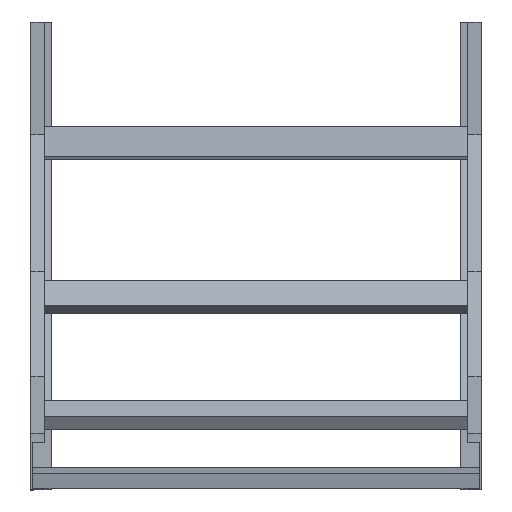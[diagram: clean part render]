
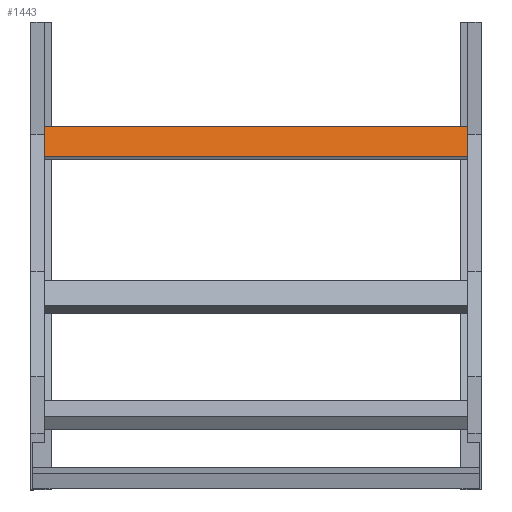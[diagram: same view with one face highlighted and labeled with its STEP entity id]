
A CAD part, top view. The second image highlights one B-rep face of the part: STEP entity #1443.
In plain terms, the highlighted planar face has unit normal (0, 0.195, 0.981) as drawn and (0, 1, 0) by its records, which use the part's own axes.
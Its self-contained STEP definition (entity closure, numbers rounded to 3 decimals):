
#41 = DIRECTION ( 'NONE',  ( 0., -1., 0. ) ) ;
#77 = ORIENTED_EDGE ( 'NONE', *, *, #172, .T. ) ;
#172 = EDGE_CURVE ( 'NONE', #1393, #1125, #1385, .T. ) ;
#218 = VERTEX_POINT ( 'NONE', #225 ) ;
#222 = CARTESIAN_POINT ( 'NONE',  ( -298., 20., -20.25 ) ) ;
#225 = CARTESIAN_POINT ( 'NONE',  ( 298., 20., 20.25 ) ) ;
#235 = ORIENTED_EDGE ( 'NONE', *, *, #918, .F. ) ;
#354 = VECTOR ( 'NONE', #775, 1000. ) ;
#400 = EDGE_LOOP ( 'NONE', ( #1308, #1219, #235, #77 ) ) ;
#459 = PLANE ( 'NONE',  #699 ) ;
#627 = DIRECTION ( 'NONE',  ( 0., 0., -1. ) ) ;
#697 = LINE ( 'NONE', #1738, #1711 ) ;
#699 = AXIS2_PLACEMENT_3D ( 'NONE', #1620, #41, #627 ) ;
#775 = DIRECTION ( 'NONE',  ( 0., 0., 1. ) ) ;
#794 = DIRECTION ( 'NONE',  ( -1., 0., 0. ) ) ;
#806 = DIRECTION ( 'NONE',  ( -1., 0., 0. ) ) ;
#918 = EDGE_CURVE ( 'NONE', #1393, #218, #697, .T. ) ;
#943 = CARTESIAN_POINT ( 'NONE',  ( 298., 20., -20.25 ) ) ;
#1125 = VERTEX_POINT ( 'NONE', #222 ) ;
#1153 = EDGE_CURVE ( 'NONE', #1125, #1793, #1647, .T. ) ;
#1219 = ORIENTED_EDGE ( 'NONE', *, *, #1348, .F. ) ;
#1308 = ORIENTED_EDGE ( 'NONE', *, *, #1153, .T. ) ;
#1312 = DIRECTION ( 'NONE',  ( 0., 0., 1. ) ) ;
#1348 = EDGE_CURVE ( 'NONE', #218, #1793, #1531, .T. ) ;
#1385 = LINE ( 'NONE', #943, #1449 ) ;
#1393 = VERTEX_POINT ( 'NONE', #1432 ) ;
#1400 = CARTESIAN_POINT ( 'NONE',  ( 298., 20., 20.25 ) ) ;
#1432 = CARTESIAN_POINT ( 'NONE',  ( 298., 20., -20.25 ) ) ;
#1443 = ADVANCED_FACE ( 'NONE', ( #1813 ), #459, .F. ) ;
#1449 = VECTOR ( 'NONE', #794, 1000. ) ;
#1487 = VECTOR ( 'NONE', #806, 1000. ) ;
#1503 = CARTESIAN_POINT ( 'NONE',  ( -298., 20., 20.25 ) ) ;
#1531 = LINE ( 'NONE', #1400, #1487 ) ;
#1620 = CARTESIAN_POINT ( 'NONE',  ( 298., 20., 20.25 ) ) ;
#1647 = LINE ( 'NONE', #1503, #354 ) ;
#1711 = VECTOR ( 'NONE', #1312, 1000. ) ;
#1738 = CARTESIAN_POINT ( 'NONE',  ( 298., 20., 20.25 ) ) ;
#1773 = CARTESIAN_POINT ( 'NONE',  ( -298., 20., 20.25 ) ) ;
#1793 = VERTEX_POINT ( 'NONE', #1773 ) ;
#1813 = FACE_OUTER_BOUND ( 'NONE', #400, .T. ) ;
